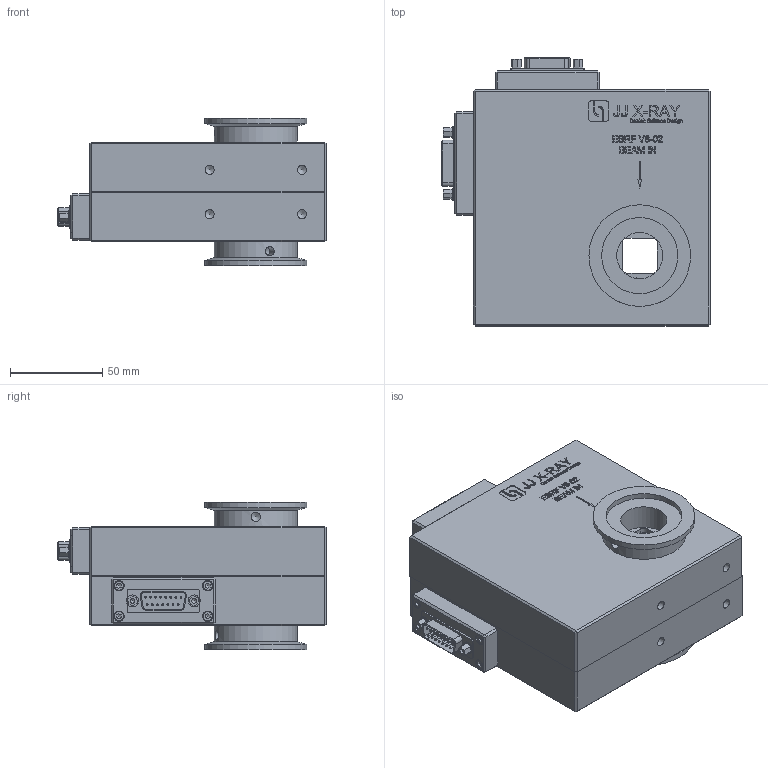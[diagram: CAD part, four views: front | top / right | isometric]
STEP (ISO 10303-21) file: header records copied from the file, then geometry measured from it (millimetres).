
FILE_DESCRIPTION((''),'2;1');
FILE_NAME('C:\WF\Designs\Slitter\ESRF VAC\JJ X-Ray hjemmeside\AT-F7-HV Slit.stp','2012-10-03T09:38:15',('Henning'),(''),'Autodesk Inventor 2013','Autodesk Inventor 2013','');
FILE_SCHEMA(('AUTOMOTIVE_DESIGN { 1 0 10303 214 1 1 1 1 }'));
Length unit declared in the file: millimetre
Products named in the file (13): Assembly1; 030102b2 nyt logo; 030105a3; 030103a4; 030104a4; Sub D konnektor 15 ben; DIN 912  (Regulær gevind) - erstattet med DIN EN ISO 4762 M3 x 10; DIN 912  (Regulær gevind) - erstattet med DIN EN ISO 4762 M2 x 6; O-ring hus; Assembly-b; 030102a2 nyt logo; D-Connector screw; DIN 912  (Regulær gevind) - erstattet med DIN EN ISO 4762 M4 x 35
Assembly tree (36 placements, depth 3):
  Assembly1
    030102b2 nyt logo
    030105a3
    030103a4
    030104a4
    Sub D konnektor 15 ben
    DIN 912  (Regulær gevind) - erstattet med DIN EN ISO 4762 M3 x 10  x4
    DIN 912  (Regulær gevind) - erstattet med DIN EN ISO 4762 M2 x 6  x4
    O-ring hus
    Assembly-b
      030102a2 nyt logo
      030105a3
      030103a4
      030104a4
      Sub D konnektor 15 ben
      DIN 912  (Regulær gevind) - erstattet med DIN EN ISO 4762 M3 x 10  x4
      DIN 912  (Regulær gevind) - erstattet med DIN EN ISO 4762 M2 x 6  x4
      D-Connector screw  x2
    DIN 912  (Regulær gevind) - erstattet med DIN EN ISO 4762 M4 x 35  x4
    D-Connector screw  x2
Bounding box: 145 x 145 x 80 mm (x, y, z)
Volume: 436286.7 mm3; surface area: 204533.2 mm2
Topology: 35 solids, 35 shells, 2020 faces, 5118 edges, 3348 vertices
Faces by surface type: plane 1053, bspline 497, cylinder 318, cone 86, torus 32, sphere 30, revolution 4
Full cylindrical faces by diameter (mm): 1 x30, 1.221 x8, 1.567 x10, 2 x8, 2.156 x4, 2.459 x8, 2.487 x4, 2.5 x12, 2.7 x4, 2.82 x4, 3 x8, 3.242 x4, 3.5 x12, 3.8 x8, 4 x4, 4.5 x8, 4.917 x8, 5 x4, 5.5 x12, 5.6 x8, 6.5 x4, 7 x4, 7.5 x4, 25 x2, 27 x2, 28 x4, 30 x2, 34 x2, 41.2 x2, 45 x2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
Entity records: 50523 total; most frequent: CARTESIAN_POINT 16025, ORIENTED_EDGE 7596, DIRECTION 5362, EDGE_CURVE 3798, VERTEX_POINT 2586, VECTOR 2384, LINE 2384, EDGE_LOOP 1914
